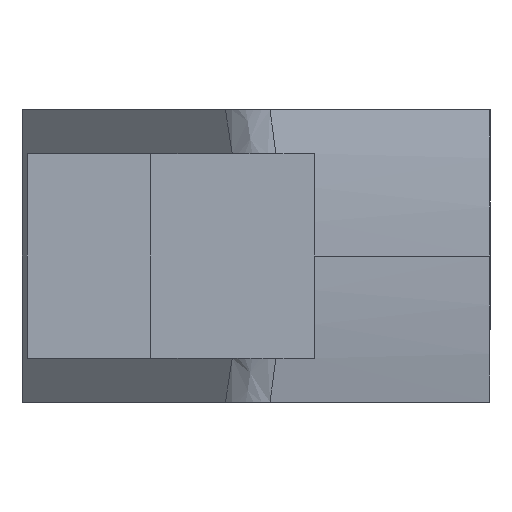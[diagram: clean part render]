
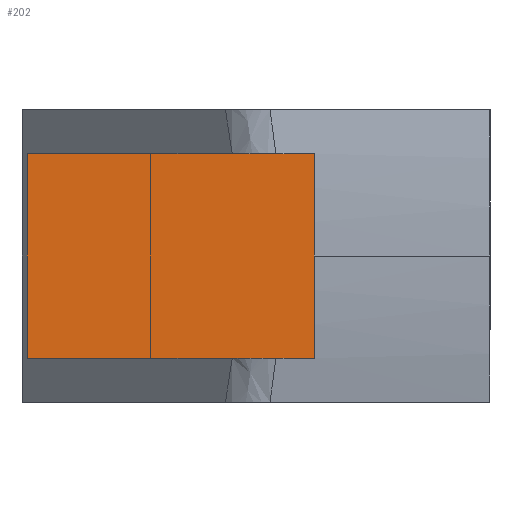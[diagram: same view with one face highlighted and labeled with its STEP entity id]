
A CAD part, left-side view. The second image highlights one B-rep face of the part: STEP entity #202.
In plain terms, the highlighted planar face has unit normal (-1, 0, 0).
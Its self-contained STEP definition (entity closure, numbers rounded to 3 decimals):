
#27 = CARTESIAN_POINT ( 'NONE',  ( -0.553, 39.534, 12.5 ) ) ;
#28 = DIRECTION ( 'NONE',  ( 0., 1., 0. ) ) ;
#41 = DIRECTION ( 'NONE',  ( 0., 0., 1. ) ) ;
#64 = ORIENTED_EDGE ( 'NONE', *, *, #546, .T. ) ;
#90 = VECTOR ( 'NONE', #293, 1000. ) ;
#94 = PLANE ( 'NONE',  #393 ) ;
#97 = VERTEX_POINT ( 'NONE', #733 ) ;
#103 = LINE ( 'NONE', #27, #824 ) ;
#202 = ADVANCED_FACE ( 'NONE', ( #356 ), #94, .F. ) ;
#204 = CARTESIAN_POINT ( 'NONE',  ( -0.553, 15., -8.75 ) ) ;
#207 = DIRECTION ( 'NONE',  ( 0., 1., 0. ) ) ;
#219 = VECTOR ( 'NONE', #207, 1000. ) ;
#223 = DIRECTION ( 'NONE',  ( 0., 0., 1. ) ) ;
#282 = EDGE_CURVE ( 'NONE', #97, #532, #764, .T. ) ;
#293 = DIRECTION ( 'NONE',  ( 0., 1., 0. ) ) ;
#356 = FACE_OUTER_BOUND ( 'NONE', #798, .T. ) ;
#393 = AXIS2_PLACEMENT_3D ( 'NONE', #467, #1065, #28 ) ;
#411 = CARTESIAN_POINT ( 'NONE',  ( -0.553, 15., -8.75 ) ) ;
#450 = VERTEX_POINT ( 'NONE', #1185 ) ;
#467 = CARTESIAN_POINT ( 'NONE',  ( -0.553, -36.144, -8.75 ) ) ;
#471 = VECTOR ( 'NONE', #41, 1000. ) ;
#532 = VERTEX_POINT ( 'NONE', #1110 ) ;
#546 = EDGE_CURVE ( 'NONE', #1230, #97, #720, .T. ) ;
#628 = LINE ( 'NONE', #753, #90 ) ;
#720 = LINE ( 'NONE', #411, #471 ) ;
#733 = CARTESIAN_POINT ( 'NONE',  ( -0.553, 15., 8.75 ) ) ;
#753 = CARTESIAN_POINT ( 'NONE',  ( -0.553, -36.144, -8.75 ) ) ;
#764 = LINE ( 'NONE', #959, #219 ) ;
#798 = EDGE_LOOP ( 'NONE', ( #1202, #64, #841, #818 ) ) ;
#818 = ORIENTED_EDGE ( 'NONE', *, *, #1058, .F. ) ;
#824 = VECTOR ( 'NONE', #223, 1000. ) ;
#841 = ORIENTED_EDGE ( 'NONE', *, *, #282, .T. ) ;
#959 = CARTESIAN_POINT ( 'NONE',  ( -0.553, -36.144, 8.75 ) ) ;
#1058 = EDGE_CURVE ( 'NONE', #450, #532, #103, .T. ) ;
#1065 = DIRECTION ( 'NONE',  ( 1., 0., 0. ) ) ;
#1110 = CARTESIAN_POINT ( 'NONE',  ( -0.553, 39.534, 8.75 ) ) ;
#1185 = CARTESIAN_POINT ( 'NONE',  ( -0.553, 39.534, -8.75 ) ) ;
#1186 = EDGE_CURVE ( 'NONE', #1230, #450, #628, .T. ) ;
#1202 = ORIENTED_EDGE ( 'NONE', *, *, #1186, .F. ) ;
#1230 = VERTEX_POINT ( 'NONE', #204 ) ;
